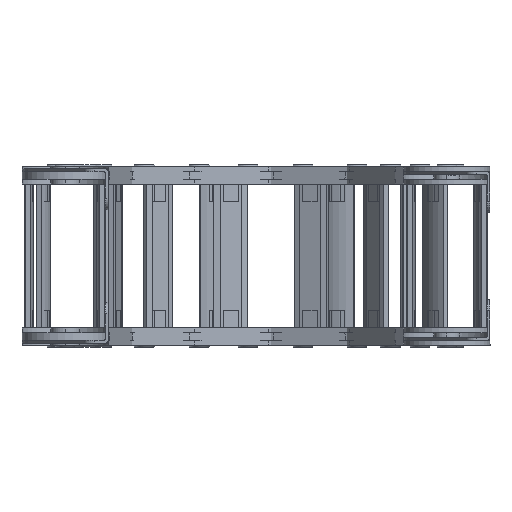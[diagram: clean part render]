
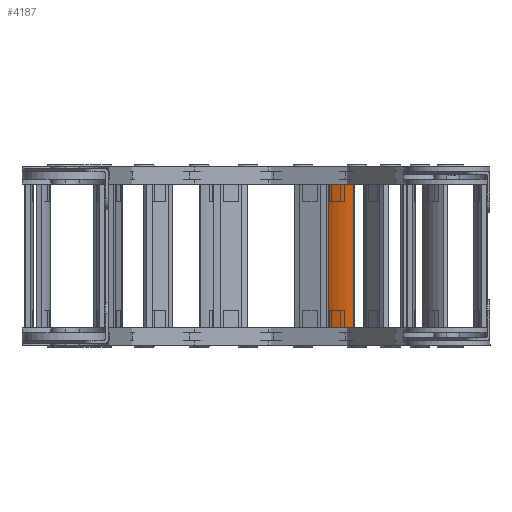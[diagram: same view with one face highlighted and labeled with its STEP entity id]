
A CAD part, left-side view. The second image highlights one B-rep face of the part: STEP entity #4187.
In plain terms, the highlighted cylindrical face has radius 52 mm (diameter 104 mm), a partial arc.
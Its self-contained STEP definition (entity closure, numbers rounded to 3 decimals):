
#4001=CARTESIAN_POINT('',(38.75,85.,0.));
#4002=DIRECTION('',(0.,0.,-1.));
#4003=DIRECTION('',(0.346,-0.938,0.));
#4004=AXIS2_PLACEMENT_3D('',#4001,#4002,#4003);
#4044=DIRECTION('',(0.,0.,-1.));
#4045=VECTOR('',#4044,150.3);
#4046=CARTESIAN_POINT('',(56.75,36.215,0.));
#4047=LINE('',#4046,#4045);
#4051=DIRECTION('',(0.,0.,1.));
#4052=VECTOR('',#4051,150.3);
#4053=CARTESIAN_POINT('',(20.75,36.215,-150.3));
#4054=LINE('',#4053,#4052);
#4079=CARTESIAN_POINT('',(38.75,85.,-150.3));
#4080=DIRECTION('',(0.,0.,1.));
#4081=DIRECTION('',(-0.346,-0.938,0.));
#4082=AXIS2_PLACEMENT_3D('',#4079,#4080,#4081);
#4130=CARTESIAN_POINT('',(56.75,36.215,-150.3));
#4132=VERTEX_POINT('',#4130);
#4133=CARTESIAN_POINT('',(20.75,36.215,-150.3));
#4134=VERTEX_POINT('',#4133);
#4141=CARTESIAN_POINT('',(56.75,36.215,0.));
#4142=VERTEX_POINT('',#4141);
#4145=CARTESIAN_POINT('',(20.75,36.215,0.));
#4146=VERTEX_POINT('',#4145);
#4173=CARTESIAN_POINT('',(38.75,85.,-75.3));
#4174=DIRECTION('',(0.,0.,1.));
#4175=DIRECTION('',(1.,0.,0.));
#4176=AXIS2_PLACEMENT_3D('',#4173,#4174,#4175);
#4177=CYLINDRICAL_SURFACE('',#4176,52.);
#4179=ORIENTED_EDGE('',*,*,#4178,.T.);
#4181=ORIENTED_EDGE('',*,*,#4180,.F.);
#4183=ORIENTED_EDGE('',*,*,#4182,.T.);
#4184=ORIENTED_EDGE('',*,*,#4158,.F.);
#4185=EDGE_LOOP('',(#4179,#4181,#4183,#4184));
#4186=FACE_OUTER_BOUND('',#4185,.F.);
#4187=ADVANCED_FACE('',(#4186),#4177,.T.);
#4005=CIRCLE('',#4004,52.);
#4083=CIRCLE('',#4082,52.);
#4158=EDGE_CURVE('',#4142,#4146,#4005,.T.);
#4178=EDGE_CURVE('',#4142,#4132,#4047,.T.);
#4180=EDGE_CURVE('',#4134,#4132,#4083,.T.);
#4182=EDGE_CURVE('',#4134,#4146,#4054,.T.);
